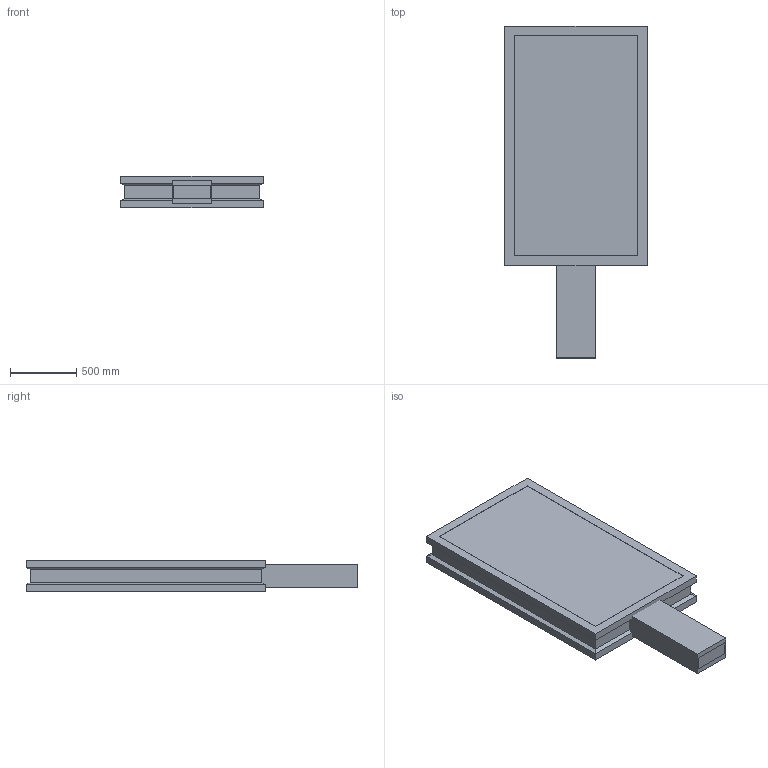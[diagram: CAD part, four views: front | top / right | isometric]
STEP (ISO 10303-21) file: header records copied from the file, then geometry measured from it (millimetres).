
FILE_DESCRIPTION (( 'STEP AP214' ), '1' );
FILE_NAME ('NAB-AL-Almere-75inch.STEP', '2020-02-16T20:56:23', ( '' ), ( '' ), 'SwSTEP 2.0', 'SolidWorks 2016', '' );
FILE_SCHEMA (( 'AUTOMOTIVE_DESIGN' ));
Length unit declared in the file: millimetre
Products named in the file (1): NAB-AL-Almere-75inch
Bounding box: 1072 x 2500 x 240 mm (x, y, z)
Volume: 565030270 mm3; surface area: 10539814 mm2
Topology: 4 solids, 4 shells, 47 faces, 99 edges, 60 vertices
Faces by surface type: plane 47
Entity records: 1296 total; most frequent: CARTESIAN_POINT 207, ORIENTED_EDGE 198, DIRECTION 195, EDGE_CURVE 99, VECTOR 99, LINE 99, VERTEX_POINT 60, EDGE_LOOP 49
